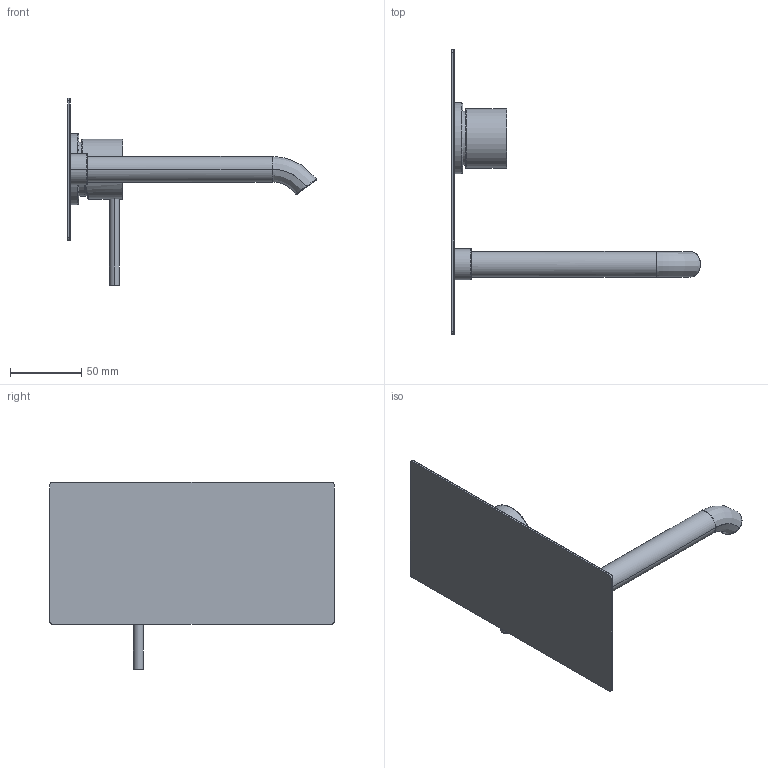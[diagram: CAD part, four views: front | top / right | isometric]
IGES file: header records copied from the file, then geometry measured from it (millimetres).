
Start section: START RECORD GO HERE.
Global section: file name: 5446_3D.igs; native system: DASSAULT SYSTEMES CATIA V5 R19 - www.3ds.com; preprocessor: CATIA Version 5 Release 19 SP 5 ; author: Luca; organization: DESKTOP-V7SON24; date: 20201128.100952; units: millimetre
Bounding box: 175.06 x 200 x 132 mm (x, y, z)
Surface area: 71299.7 mm2 (no closed solid volume)
Topology: 0 solids, 0 shells, 69 faces, 268 edges, 268 vertices
Faces by surface type: revolution 42, plane 18, bspline 9
